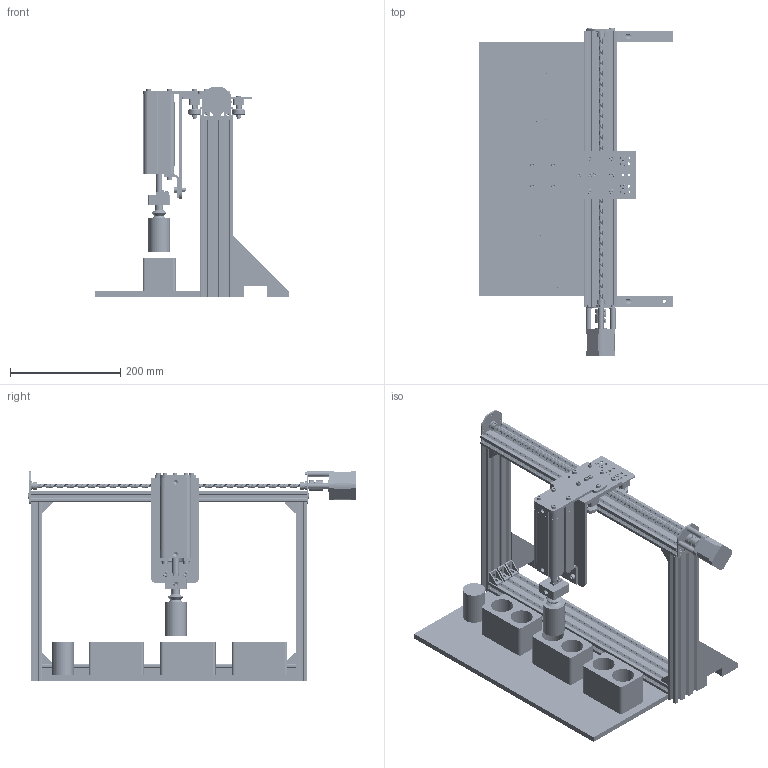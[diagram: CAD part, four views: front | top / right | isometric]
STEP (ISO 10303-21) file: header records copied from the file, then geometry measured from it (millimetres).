
FILE_DESCRIPTION(/* description */ (''),/* implementation_level */ '2;1');
FILE_NAME(/* name */ 'Sistema di smistamento.stp',/* time_stamp */ '2024-10-24T16:44:50+02:00',/* author */ ('R5800u'),/* organization */ (''),/* preprocessor_version */ 'ST-DEVELOPER v20',/* originating_system */ 'Autodesk Inventor 2025',/* authorisation */ '');
FILE_SCHEMA (('AUTOMOTIVE_DESIGN { 1 0 10303 214 3 1 1 }'));
Products named in the file (95): Nema 17 V Slot Lead Screw Driven Actuator; vslot-4020-verticaleipt; Solido42; Solido45; Solido39; Solido44; Solido60; Solido61; Solido66; Solido65; Solido62; Solido63; Solido46; Solido43; Solido35; Solido34; Solido38; Solido36; Solido37; Solido64; Solido41; Solido40; Piatto guida; Solido32; Solido1; Solido53; Solido52; Solido56; Solido30; Solido29; Solido28; Solido26; Solido25; Solido24; Solido23; Solido22; Solido21; Solido57; Solido19; Solido18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
Assembly tree (119 placements, depth 3):
  Nema 17 V Slot Lead Screw Driven Actuator
    vslot-4020-verticaleipt
    Solido42
    Solido45
    Solido39
    Solido44
    Solido60
    Solido61
    Solido66
    Solido65
    Solido62
    Solido63
    Solido46
    Solido43
    Solido35
    Solido34
    Solido38
    Solido36
    Solido37
    Solido64
    Solido41
    Solido40
    Piatto guida
      Solido32
      Solido1
      Solido53
      Solido52
      Solido56
      Solido30
      Solido29
      Solido28
      Solido26
      Solido25
      Solido24
      Solido23
      Solido22
      Solido21
      Solido57
      Solido19
      Solido18
      Solido17
      Solido16
      Solido27
      Solido20
      Solido59
      Solido54
      Solido49
      Solido48
      Solido31
      Solido14
      Solido13
      Solido12
      Solido11
      Solido15
      Solido50
      Solido10
      Solido9
      Solido51
      Solido7
      Solido5
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Bounding box: 350 x 593.5 x 380.41 mm (x, y, z)
Volume: 3658126.4 mm3; surface area: 1479193.5 mm2
Topology: 116 solids, 116 shells, 3644 faces, 9420 edges, 6233 vertices
Faces by surface type: plane 2074, cylinder 1289, cone 216, torus 59, bspline 6
Full cylindrical faces by diameter (mm): 2.459 x1, 2.5 x4, 3 x8, 3.2 x7, 3.4 x4, 3.9 x4, 4.2 x18, 4.25 x6, 4.763 x1, 4.85 x4, 4.917 x9, 5 x48, 5.1 x58, 5.3 x19, 5.5 x135, 6 x6, 6.6 x4, 7.1 x12, 7.11 x2, 7.2 x6, 8 x193, 8.5 x22, 8.566 x3, 8.6 x16, 9 x12, 9.3 x8, 10 x21, 10.2 x4, 11 x3, 11.8 x2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
Entity records: 125582 total; most frequent: CARTESIAN_POINT 49572, ORIENTED_EDGE 15204, DIRECTION 14145, EDGE_CURVE 7602, VERTEX_POINT 5042, AXIS2_PLACEMENT_3D 4828, LINE 4489, VECTOR 4489
